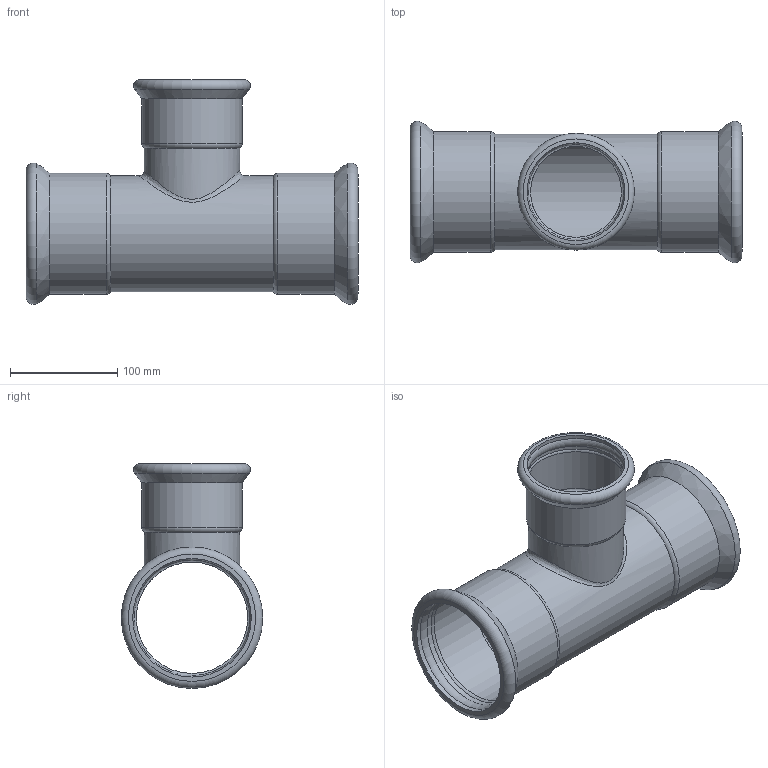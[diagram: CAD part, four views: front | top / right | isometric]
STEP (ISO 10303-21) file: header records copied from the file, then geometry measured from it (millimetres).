
FILE_DESCRIPTION(/* description */ ('TEE RIDOTTO 108-88,9-108'),/* implementation_level */ '2;1');
FILE_NAME(/* name */ 'R:\Disegni3D_Area_Manager\Inoxpres.step\192_INOXPRES\192108088_Inoxpres.stp',/* time_stamp */ '2022-10-12T11:13:20+02:00',/* author */ ('Vault'),/* organization */ ('Raccorderie metalliche s.p.a. '),/* preprocessor_version */ 'ST-DEVELOPER v18.1',/* originating_system */ 'Autodesk Inventor 2020',/* authorisation */ 'Raccorderie metalliche s.p.a. ');
FILE_SCHEMA (('AUTOMOTIVE_DESIGN { 1 0 10303 214 3 1 1 }'));
Length unit declared in the file: millimetre
Products named in the file (1): 192108088_Inoxpres
Bounding box: 310 x 132.09 x 210.04 mm (x, y, z)
Volume: 385769.9 mm3; surface area: 270750.7 mm2
Topology: 1 solids, 1 shells, 39 faces, 141 edges, 102 vertices
Faces by surface type: cylinder 16, torus 15, bspline 5, cone 3
Full cylindrical faces by diameter (mm): 84.9 x1, 88.9 x1, 89.6 x1, 91.5 x2, 93.6 x1, 104 x1, 108 x1, 108.8 x2, 110.7 x4, 112.8 x2
Entity records: 2314 total; most frequent: CARTESIAN_POINT 941, DIRECTION 323, ORIENTED_EDGE 286, AXIS2_PLACEMENT_3D 151, EDGE_CURVE 143, CIRCLE 116, VERTEX_POINT 104, EDGE_LOOP 41
